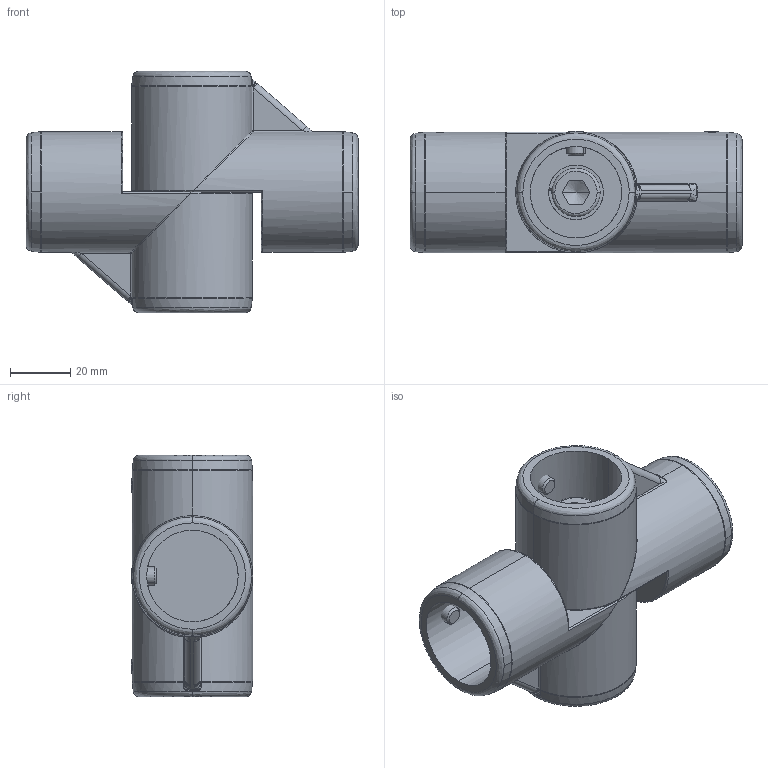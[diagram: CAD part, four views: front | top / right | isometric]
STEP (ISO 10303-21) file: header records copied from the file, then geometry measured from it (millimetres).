
FILE_DESCRIPTION (( 'STEP AP214' ), '1' );
FILE_NAME ('31000410018.STEP', '2024-09-02T09:42:44', ( '' ), ( '' ), 'SwSTEP 2.0', 'SolidWorks 2016', '' );
FILE_SCHEMA (( 'AUTOMOTIVE_DESIGN' ));
Length unit declared in the file: millimetre
Products named in the file (6): DIN 128 A10; 1924b-1_1-Schalig; 31000410018; DIN 913  (Regelgewinde) M6 x 8_1; 1924b-2_1-Schalig; DIN 912  (Regelgewinde) - ersetzt durch DIN EN ISO 4762 M10 x 30_1
Assembly tree (8 placements, depth 2):
  31000410018
    1924b-1_1-Schalig
    1924b-2_1-Schalig
    DIN 913  (Regelgewinde) M6 x 8_1  x4
    DIN 128 A10
    DIN 912  (Regelgewinde) - ersetzt durch DIN EN ISO 4762 M10 x 30_1
Bounding box: 110 x 40.26 x 80 mm (x, y, z)
Volume: 112002 mm3; surface area: 42713 mm2
Topology: 8 solids, 8 shells, 253 faces, 643 edges, 402 vertices
Faces by surface type: bspline 72, plane 71, cylinder 70, cone 36, sphere 4
Entity records: 15968 total; most frequent: CARTESIAN_POINT 9245, ORIENTED_EDGE 1022, DIRECTION 644, EDGE_CURVE 511, VERTEX_POINT 327, AXIS2_PLACEMENT_3D 260, B_SPLINE_CURVE_WITH_KNOTS 252, EDGE_LOOP 228
